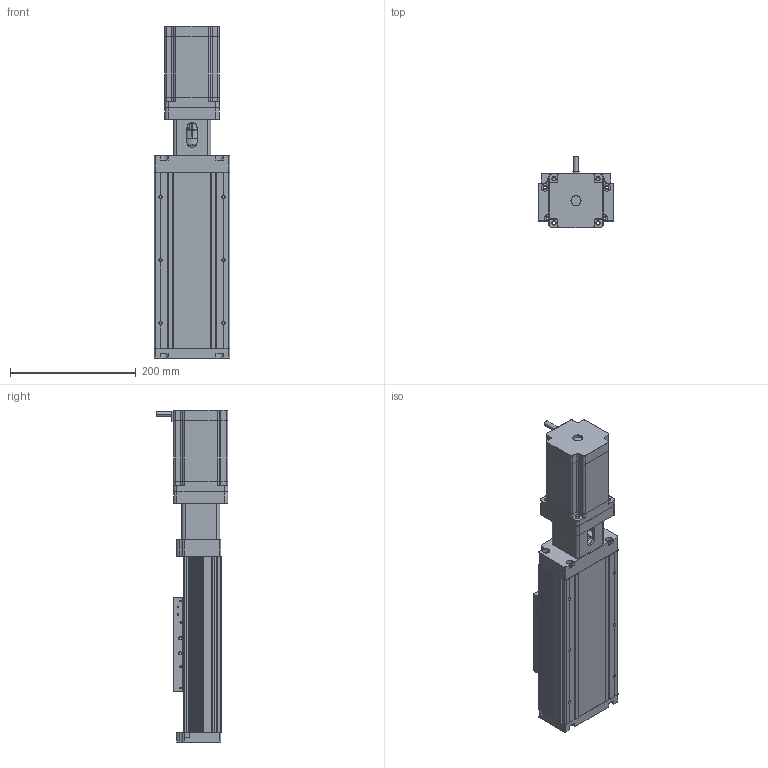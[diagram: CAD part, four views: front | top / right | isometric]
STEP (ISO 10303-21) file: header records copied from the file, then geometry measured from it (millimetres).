
FILE_DESCRIPTION (( 'STEP AP203' ), '1' );
FILE_NAME ('PCH120C7L10E100BC.STEP', '2021-10-14T05:09:43', ( '' ), ( '' ), 'SwSTEP 2.0', 'SolidWorks 2021', '' );
FILE_SCHEMA (( 'CONFIG_CONTROL_DESIGN' ));
Length unit declared in the file: millimetre
Products named in the file (25): 祥凄詩湍-300; 滅袉輸ㄗ120Sㄘ; 7201C 褒諉揖⑩粣創; 6000 旮僱⑩粣創; 60萇儂徹傾釱; FLK8-3035 繩豪薊粣ん_FLK8-3035-1014; 婦蝶謫耳8.5-70; HRH15-290_佪裝 俴最600; 佪裝SFS16-120-246; 綴蟀諉啣ㄗ120Sㄘ; ヶ蟀諉啣ㄗ120Sㄘ; HGH15CA（方） 方滑块; FM86128SJT03 步进电机_不带刹车; M12℅1 佪裝坶踡蹟譫; PCH120C7L10E100BC; 肣杶囀噤12; 萇儂蟀諉楊擘ㄗ86ㄘ; 裔啣ㄗ120Sㄘ; M5x16 内六角圆柱头螺钉_M5x16; 1610螺母 滚珠丝杆螺母; PYSL120-280; 徹蚐輸ㄗ120Sㄘ; 迍啣ㄗ120Sㄘ; 徹蚐遠ㄗ120Sㄘ; 蟀諉輸ㄗ120Sㄘ
Assembly tree (34 placements, depth 2):
  PCH120C7L10E100BC
    PYSL120-280
    HRH15-290_佪裝 俴最600  x2
    HGH15CA（方） 方滑块  x4
    蟀諉輸ㄗ120Sㄘ
    1610螺母 滚珠丝杆螺母
    M5x16 内六角圆柱头螺钉_M5x16  x4
    綴蟀諉啣ㄗ120Sㄘ
    ヶ蟀諉啣ㄗ120Sㄘ
    萇儂蟀諉楊擘ㄗ86ㄘ
    60萇儂徹傾釱
    7201C 褒諉揖⑩粣創  x2
    6000 旮僱⑩粣創
    佪裝SFS16-120-246
    肣杶囀噤12
    M12℅1 佪裝坶踡蹟譫
    迍啣ㄗ120Sㄘ
    滅袉輸ㄗ120Sㄘ  x2
    徹蚐輸ㄗ120Sㄘ  x2
    徹蚐遠ㄗ120Sㄘ
    裔啣ㄗ120Sㄘ
    FM86128SJT03 步进电机_不带刹车
    婦蝶謫耳8.5-70
    FLK8-3035 繩豪薊粣ん_FLK8-3035-1014
    祥凄詩湍-300
Bounding box: 120 x 114 x 527 mm (x, y, z)
Volume: 2576717.4 mm3; surface area: 700187.2 mm2
Topology: 40 solids, 40 shells, 3164 faces, 8175 edges, 5057 vertices
Faces by surface type: plane 1339, cylinder 1063, cone 478, bspline 210, torus 54, sphere 20
Entity records: 82323 total; most frequent: CARTESIAN_POINT 20588, DIRECTION 12528, ORIENTED_EDGE 12242, EDGE_CURVE 6121, AXIS2_PLACEMENT_3D 4672, VERTEX_POINT 3866, LINE 3184, VECTOR 3184
